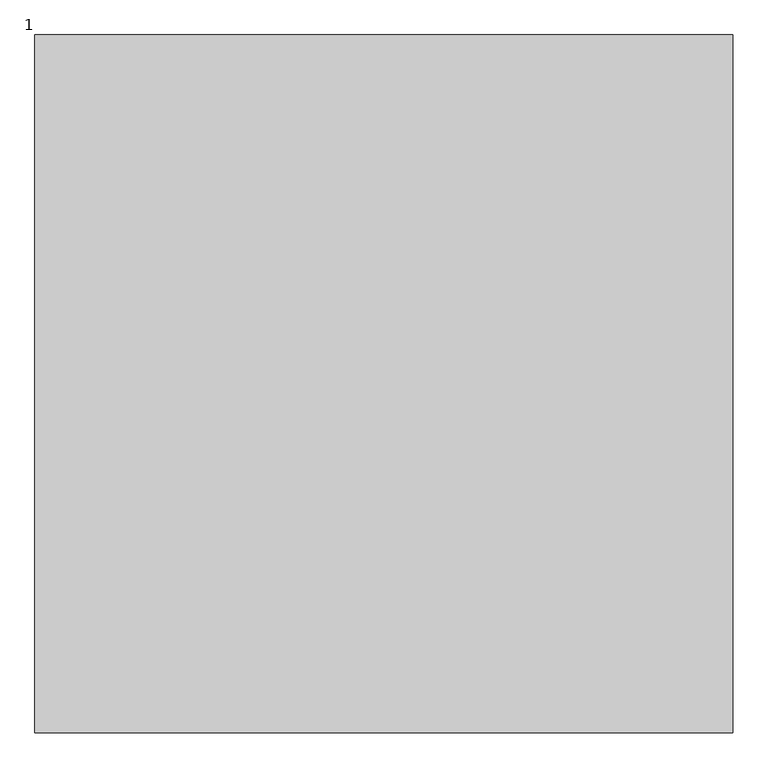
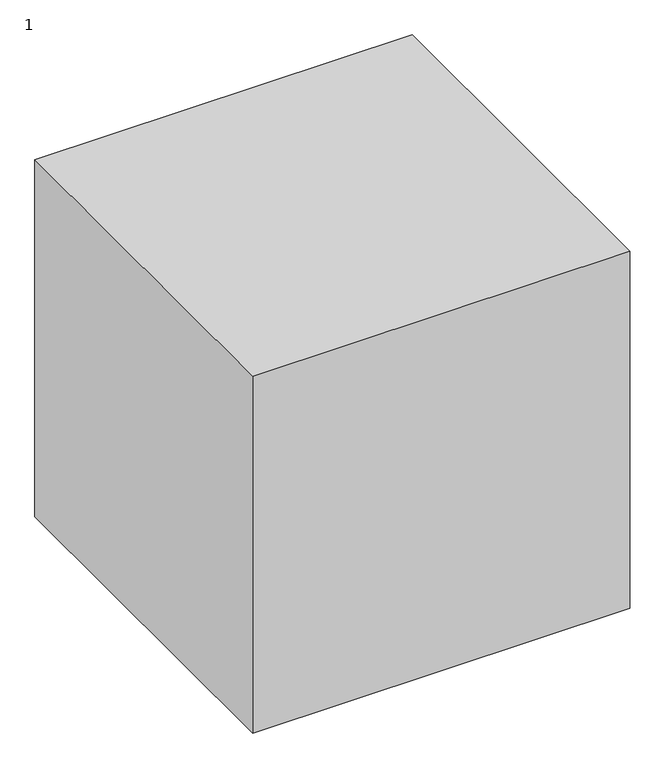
"""IFC4 building model written with IfcOpenShell, lengths in millimetres: proxy geometry, 1222111111 : 1."""

from ifc_helpers import new_model, si_unit, origin, origin_with_axes, place, context, project, spatial, polyline, outline, extrude, source, transform, mapped, element, save


def proxy_1_c316cd3d(model_context):
    return source(origin(), model_context, "Body", "SweptSolid", [
        extrude(outline(polyline([(21692.0243292, 11335.2294472), (21692.0243292, 10335.2294472), (20692.0243292, 10335.2294472), (20692.0243292, 11335.2294472), (21692.0243292, 11335.2294472)])), origin_with_axes(), (0.0, 0.0, 1.0), 1000.0),
    ])


if __name__ == "__main__":
    model = new_model("IFC4")
    model_context = context("Model", 3, world=origin())
    ifc_project = project(units=[si_unit("LENGTHUNIT", "METRE", prefix="MILLI")], contexts=[model_context])
    site = spatial("IfcSite", under=ifc_project)
    building = spatial("IfcBuilding", under=site)
    placement = place(None, origin())
    proxy_1_shape = proxy_1_c316cd3d(model_context)
    element("IfcBuildingElementProxy", 1, Name="1222111111 : 1", ObjectType="1222111111 : 1", at=placement, inside=building, context=model_context, shape_type="MappedRepresentation", body=[
        mapped(proxy_1_shape, transform((0.0, 0.0, 0.0), x_axis=(1.0, 0.0, 0.0), y_axis=(0.0, 1.0, 0.0), z_axis=(0.0, 0.0, 1.0))),
    ])
    save(model, "model.ifc")
